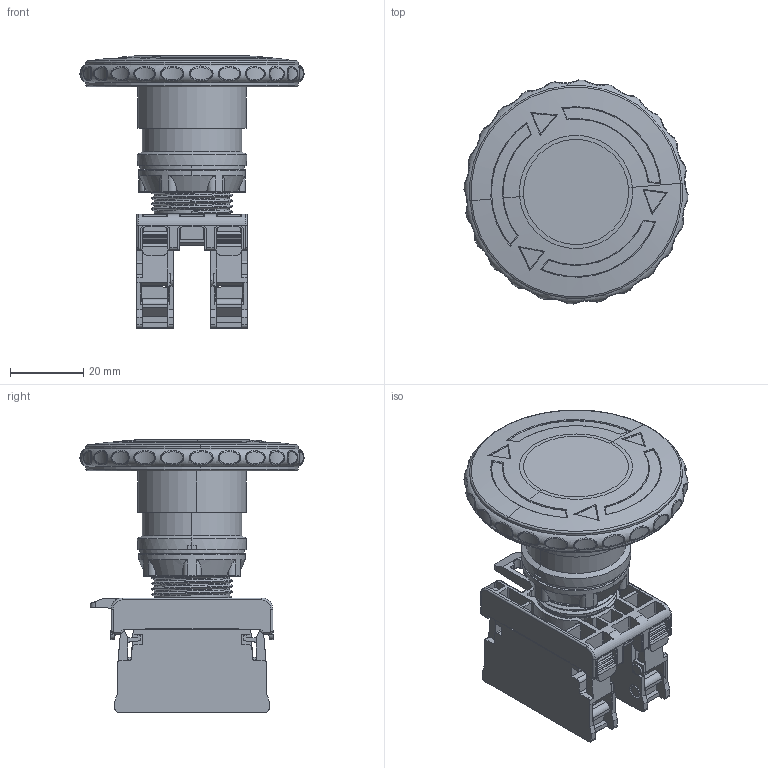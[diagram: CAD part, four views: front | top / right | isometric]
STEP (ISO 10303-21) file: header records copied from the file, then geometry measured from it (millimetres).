
FILE_DESCRIPTION (( 'STEP AP214' ), '1' );
FILE_NAME ('TGLA1-XF.STEP', '2026-05-15T08:45:31', ( '' ), ( '' ), 'SwSTEP 2.0', 'SolidWorks 2024', '' );
FILE_SCHEMA (( 'AUTOMOTIVE_DESIGN' ));
Length unit declared in the file: millimetre
Products named in the file (3): osn; TGLA1-XF; tengen_1N_TGLA1-XF(A.1)
Assembly tree (2 placements, depth 2):
  TGLA1-XF
    tengen_1N_TGLA1-XF(A.1)
    osn
Bounding box: 60.98 x 60.98 x 74.2 mm (x, y, z)
Volume: 33534.8 mm3; surface area: 44671.3 mm2
Topology: 8 solids, 12 shells, 2695 faces, 7606 edges, 4918 vertices
Faces by surface type: plane 1491, cylinder 791, bspline 180, cone 128, torus 81, sphere 24
Entity records: 113327 total; most frequent: CARTESIAN_POINT 43582, ORIENTED_EDGE 15192, DIRECTION 14078, EDGE_CURVE 7596, VERTEX_POINT 4918, LINE 4712, VECTOR 4712, AXIS2_PLACEMENT_3D 4683
